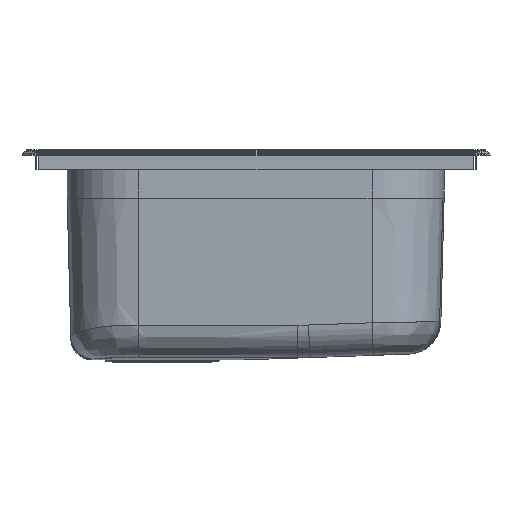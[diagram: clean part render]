
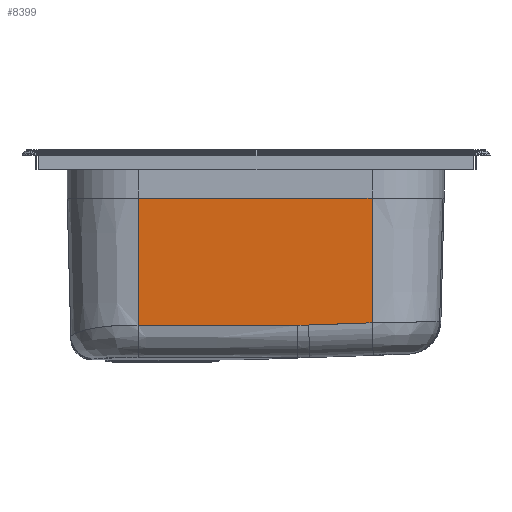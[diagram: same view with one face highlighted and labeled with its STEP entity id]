
A CAD part, left-side view. The second image highlights one B-rep face of the part: STEP entity #8399.
In plain terms, the highlighted planar face has unit normal (-1, 0, -0.026) as drawn and (0, -1, 0.026) by its records, which use the part's own axes.
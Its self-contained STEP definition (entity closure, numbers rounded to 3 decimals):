
#7487=CARTESIAN_POINT('Vertex',(-125.,-167.214,-38.871)) ;
#7513=CARTESIAN_POINT('Line Origine',(-91.111,-167.183,-37.688)) ;
#7517=CARTESIAN_POINT('Vertex',(-57.223,-167.152,-36.504)) ;
#7774=CARTESIAN_POINT('Vertex',(-45.701,-167.147,-36.303)) ;
#7778=CARTESIAN_POINT('Control Point',(125.,-167.147,-36.303)) ;
#7779=CARTESIAN_POINT('Control Point',(124.485,-167.147,-36.303)) ;
#7780=CARTESIAN_POINT('Control Point',(123.965,-167.147,-36.303)) ;
#7781=CARTESIAN_POINT('Control Point',(123.44,-167.147,-36.303)) ;
#7782=CARTESIAN_POINT('Control Point',(122.392,-167.147,-36.303)) ;
#7783=CARTESIAN_POINT('Control Point',(121.343,-167.147,-36.303)) ;
#7784=CARTESIAN_POINT('Control Point',(120.819,-167.147,-36.303)) ;
#7785=CARTESIAN_POINT('Control Point',(119.245,-167.147,-36.303)) ;
#7786=CARTESIAN_POINT('Control Point',(117.67,-167.147,-36.303)) ;
#7787=CARTESIAN_POINT('Control Point',(116.619,-167.147,-36.303)) ;
#7788=CARTESIAN_POINT('Control Point',(113.465,-167.147,-36.303)) ;
#7789=CARTESIAN_POINT('Control Point',(110.306,-167.147,-36.303)) ;
#7790=CARTESIAN_POINT('Control Point',(108.197,-167.147,-36.303)) ;
#7791=CARTESIAN_POINT('Control Point',(101.867,-167.147,-36.303)) ;
#7792=CARTESIAN_POINT('Control Point',(95.52,-167.147,-36.303)) ;
#7793=CARTESIAN_POINT('Control Point',(91.282,-167.147,-36.303)) ;
#7794=CARTESIAN_POINT('Control Point',(78.553,-167.147,-36.303)) ;
#7795=CARTESIAN_POINT('Control Point',(65.778,-167.147,-36.303)) ;
#7796=CARTESIAN_POINT('Control Point',(57.247,-167.147,-36.303)) ;
#7797=CARTESIAN_POINT('Control Point',(31.615,-167.147,-36.303)) ;
#7798=CARTESIAN_POINT('Control Point',(5.881,-167.147,-36.303)) ;
#7799=CARTESIAN_POINT('Control Point',(-11.308,-167.147,-36.303)) ;
#7800=CARTESIAN_POINT('Control Point',(-28.524,-167.147,-36.303)) ;
#7801=CARTESIAN_POINT('Control Point',(-45.701,-167.147,-36.303)) ;
#7802=CARTESIAN_POINT('Vertex',(125.,-167.147,-36.303)) ;
#8138=CARTESIAN_POINT('Vertex',(125.,-170.7,-171.991)) ;
#8141=CARTESIAN_POINT('Line Origine',(125.,-168.755,-97.708)) ;
#8360=CARTESIAN_POINT('Vertex',(-125.,-170.7,-171.991)) ;
#8363=CARTESIAN_POINT('Line Origine',(-125.,-168.957,-105.434)) ;
#8375=CARTESIAN_POINT('Axis2P3D Location',(100.,-170.7,-171.982)) ;
#8380=CARTESIAN_POINT('Line Origine',(0.,-170.7,-171.991)) ;
#8386=CARTESIAN_POINT('Control Point',(-45.701,-167.147,-36.303)) ;
#8387=CARTESIAN_POINT('Control Point',(-49.545,-167.147,-36.303)) ;
#8388=CARTESIAN_POINT('Control Point',(-53.388,-167.149,-36.37)) ;
#8389=CARTESIAN_POINT('Control Point',(-57.223,-167.152,-36.504)) ;
#7514=DIRECTION('Vector Direction',(-0.999,-0.001,-0.035)) ;
#8142=DIRECTION('Vector Direction',(0.,-0.026,-1.)) ;
#8364=DIRECTION('Vector Direction',(0.,-0.026,-1.)) ;
#8376=DIRECTION('Axis2P3D Direction',(0.,1.,-0.026)) ;
#8377=DIRECTION('Axis2P3D XDirection',(1.,0.,0.)) ;
#8381=DIRECTION('Vector Direction',(1.,0.,0.)) ;
#8378=AXIS2_PLACEMENT_3D('Plane Axis2P3D',#8375,#8376,#8377) ;
#8392=ORIENTED_EDGE('',*,*,#8384,.F.) ;
#8393=ORIENTED_EDGE('',*,*,#8145,.F.) ;
#8394=ORIENTED_EDGE('',*,*,#7804,.T.) ;
#8395=ORIENTED_EDGE('',*,*,#8390,.T.) ;
#8396=ORIENTED_EDGE('',*,*,#7519,.T.) ;
#8397=ORIENTED_EDGE('',*,*,#8367,.T.) ;
#7515=VECTOR('Line Direction',#7514,1.) ;
#8143=VECTOR('Line Direction',#8142,1.) ;
#8365=VECTOR('Line Direction',#8364,1.) ;
#8382=VECTOR('Line Direction',#8381,1.) ;
#8399=ADVANCED_FACE('PartBody',(#8398),#8379,.F.) ;
#7777=B_SPLINE_CURVE_WITH_KNOTS('',5,(#7778,#7779,#7780,#7781,#7782,#7783,#7784,#7785,#7786,#7787,#7788,#7789,#7790,#7791,#7792,#7793,#7794,#7795,#7796,#7797,#7798,#7799,#7800,#7801),.UNSPECIFIED.,.F.,.U.,(6,3,3,3,3,3,3,6),(160.889,165.518,170.147,179.404,197.919,234.95,309.01,457.131),.UNSPECIFIED.) ;
#8385=B_SPLINE_CURVE_WITH_KNOTS('',3,(#8386,#8387,#8388,#8389),.UNSPECIFIED.,.F.,.U.,(4,4),(402.7,424.013),.UNSPECIFIED.) ;
#7519=EDGE_CURVE('',#7518,#7488,#7516,.T.) ;
#7804=EDGE_CURVE('',#7803,#7775,#7777,.T.) ;
#8145=EDGE_CURVE('',#7803,#8139,#8144,.T.) ;
#8367=EDGE_CURVE('',#7488,#8361,#8366,.T.) ;
#8384=EDGE_CURVE('',#8139,#8361,#8383,.F.) ;
#8390=EDGE_CURVE('',#7775,#7518,#8385,.T.) ;
#8391=EDGE_LOOP('',(#8392,#8393,#8394,#8395,#8396,#8397)) ;
#8398=FACE_OUTER_BOUND('',#8391,.T.) ;
#7516=LINE('Line',#7513,#7515) ;
#8144=LINE('Line',#8141,#8143) ;
#8366=LINE('Line',#8363,#8365) ;
#8383=LINE('Line',#8380,#8382) ;
#8379=PLANE('',#8378) ;
#7488=VERTEX_POINT('',#7487) ;
#7518=VERTEX_POINT('',#7517) ;
#7775=VERTEX_POINT('',#7774) ;
#7803=VERTEX_POINT('',#7802) ;
#8139=VERTEX_POINT('',#8138) ;
#8361=VERTEX_POINT('',#8360) ;
